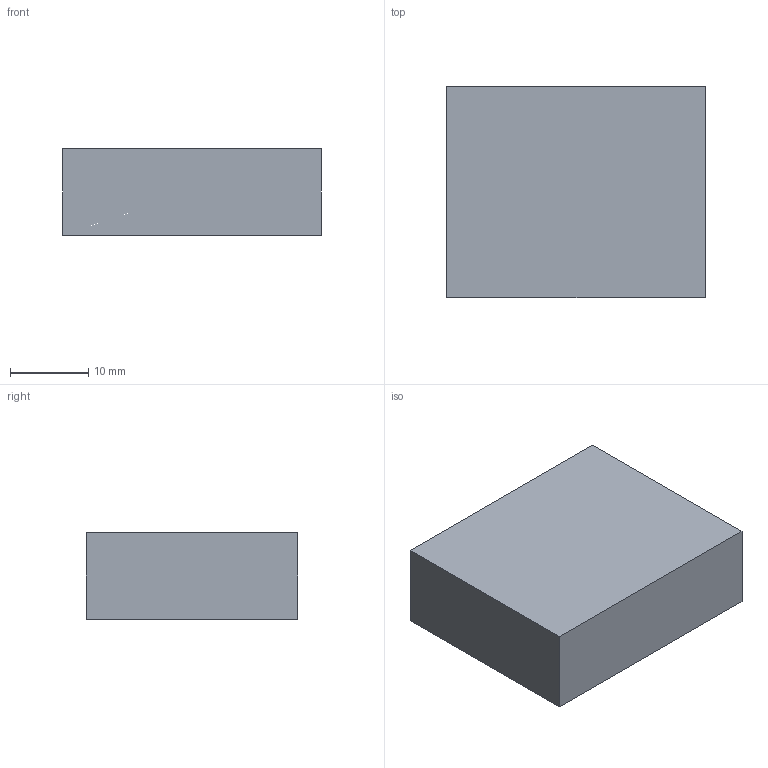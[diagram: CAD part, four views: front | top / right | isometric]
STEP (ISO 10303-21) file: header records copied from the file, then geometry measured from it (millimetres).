
FILE_DESCRIPTION(('Open CASCADE Model'),'2;1');
FILE_NAME('Open CASCADE Shape Model','2026-11-24T19:57:40',('Author'),( 'Open CASCADE'),'Open CASCADE STEP processor 7.8','Open CASCADE 7.8' ,'Unknown');
FILE_SCHEMA(('AUTOMOTIVE_DESIGN { 1 0 10303 214 1 1 1 1 }'));
Length unit declared in the file: millimetre
Products named in the file (1): Open CASCADE STEP translator 7.8 135
Bounding box: 33 x 27 x 11 mm (x, y, z)
Volume: 9801 mm3; surface area: 3102 mm2
Topology: 1 solids, 1 shells, 6 faces, 12 edges, 8 vertices
Faces by surface type: plane 6
Entity records: 322 total; most frequent: CARTESIAN_POINT 51, DIRECTION 50, LINE 36, VECTOR 36, ORIENTED_EDGE 24, PCURVE 24, DEFINITIONAL_REPRESENTATION 24, EDGE_CURVE 12
